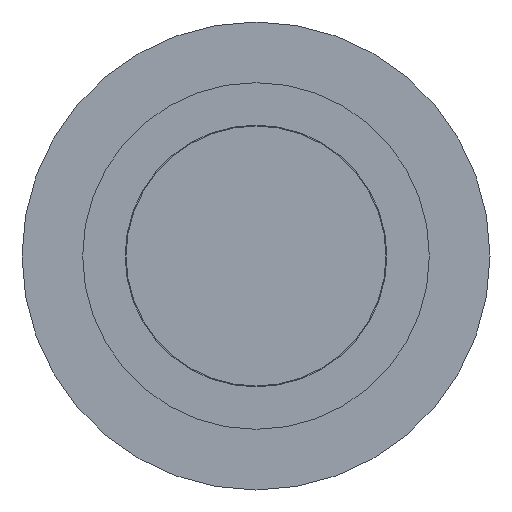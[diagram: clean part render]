
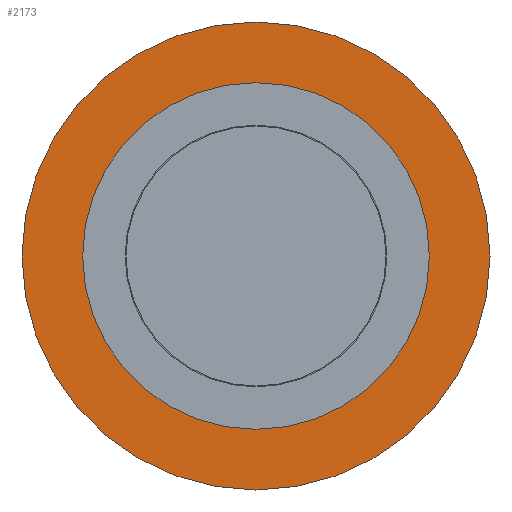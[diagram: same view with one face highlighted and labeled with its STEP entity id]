
A CAD part, left-side view. The second image highlights one B-rep face of the part: STEP entity #2173.
In plain terms, the highlighted planar face has unit normal (-1, 0, 0).
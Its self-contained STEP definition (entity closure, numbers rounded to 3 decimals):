
#45 = CARTESIAN_POINT ( 'NONE',  ( 59., 0., 0. ) ) ;
#72 = EDGE_CURVE ( 'NONE', #756, #756, #1181, .T. ) ;
#389 = FACE_BOUND ( 'NONE', #2945, .T. ) ;
#517 = VERTEX_POINT ( 'NONE', #1771 ) ;
#545 = AXIS2_PLACEMENT_3D ( 'NONE', #2141, #1106, #2123 ) ;
#756 = VERTEX_POINT ( 'NONE', #1754 ) ;
#1021 = ORIENTED_EDGE ( 'NONE', *, *, #1053, .F. ) ;
#1053 = EDGE_CURVE ( 'NONE', #517, #517, #2807, .T. ) ;
#1106 = DIRECTION ( 'NONE',  ( 1., 0., 0. ) ) ;
#1110 = CARTESIAN_POINT ( 'NONE',  ( 59., 0., 0. ) ) ;
#1181 = CIRCLE ( 'NONE', #2328, 13.5 ) ;
#1583 = FACE_OUTER_BOUND ( 'NONE', #2041, .T. ) ;
#1642 = ORIENTED_EDGE ( 'NONE', *, *, #72, .T. ) ;
#1754 = CARTESIAN_POINT ( 'NONE',  ( 59., 0., 13.5 ) ) ;
#1771 = CARTESIAN_POINT ( 'NONE',  ( 59., 0., 10. ) ) ;
#1982 = DIRECTION ( 'NONE',  ( 0., 0., 1. ) ) ;
#1996 = DIRECTION ( 'NONE',  ( -1., 0., 0. ) ) ;
#2041 = EDGE_LOOP ( 'NONE', ( #1642 ) ) ;
#2123 = DIRECTION ( 'NONE',  ( 0., 0., -1. ) ) ;
#2140 = AXIS2_PLACEMENT_3D ( 'NONE', #1110, #2352, #2158 ) ;
#2141 = CARTESIAN_POINT ( 'NONE',  ( 59., 12.1, 0. ) ) ;
#2158 = DIRECTION ( 'NONE',  ( 0., 0., 1. ) ) ;
#2173 = ADVANCED_FACE ( 'NONE', ( #1583, #389 ), #2817, .F. ) ;
#2328 = AXIS2_PLACEMENT_3D ( 'NONE', #45, #1996, #1982 ) ;
#2352 = DIRECTION ( 'NONE',  ( -1., 0., 0. ) ) ;
#2807 = CIRCLE ( 'NONE', #2140, 10. ) ;
#2817 = PLANE ( 'NONE',  #545 ) ;
#2945 = EDGE_LOOP ( 'NONE', ( #1021 ) ) ;
